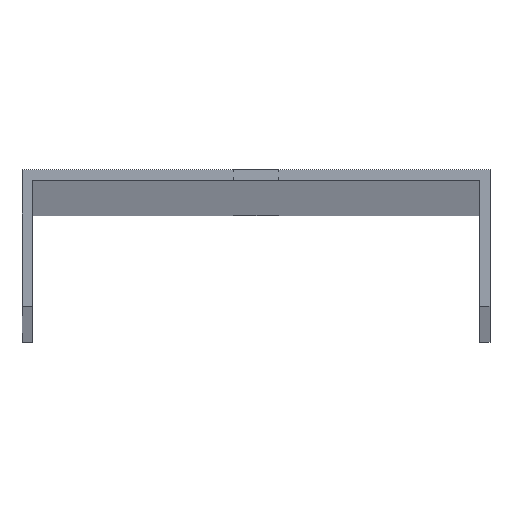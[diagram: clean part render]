
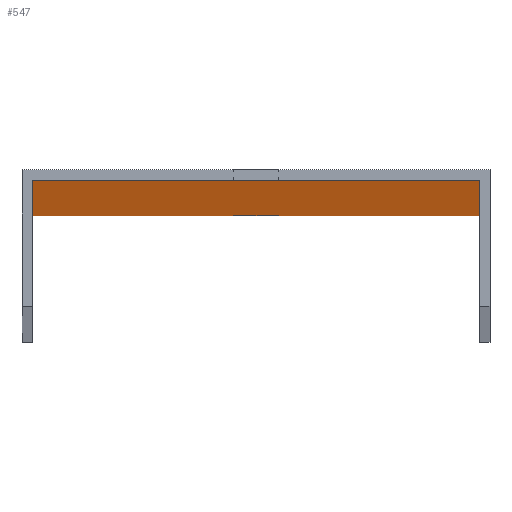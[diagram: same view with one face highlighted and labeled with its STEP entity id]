
A CAD part, top view. The second image highlights one B-rep face of the part: STEP entity #547.
In plain terms, the highlighted planar face has unit normal (0, -1, 0).
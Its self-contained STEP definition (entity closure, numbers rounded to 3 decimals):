
#1 = DIRECTION ( 'NONE',  ( -1., 0., 0. ) ) ;
#6 = FACE_BOUND ( 'NONE', #99, .T. ) ;
#9 = CARTESIAN_POINT ( 'NONE',  ( -34.25, -1.5, 1500. ) ) ;
#10 = ORIENTED_EDGE ( 'NONE', *, *, #277, .T. ) ;
#15 = EDGE_LOOP ( 'NONE', ( #47, #426, #358, #436 ) ) ;
#17 = ORIENTED_EDGE ( 'NONE', *, *, #135, .T. ) ;
#19 = CARTESIAN_POINT ( 'NONE',  ( -34.25, -1.5, 1488. ) ) ;
#21 = VECTOR ( 'NONE', #108, 1000. ) ;
#22 = VERTEX_POINT ( 'NONE', #388 ) ;
#32 = VECTOR ( 'NONE', #326, 1000. ) ;
#33 = EDGE_LOOP ( 'NONE', ( #168, #17, #10, #350 ) ) ;
#34 = CARTESIAN_POINT ( 'NONE',  ( 32.75, -1.5, 1500. ) ) ;
#42 = CARTESIAN_POINT ( 'NONE',  ( 3.25, -1.5, 1500. ) ) ;
#44 = LINE ( 'NONE', #258, #464 ) ;
#47 = ORIENTED_EDGE ( 'NONE', *, *, #175, .F. ) ;
#49 = DIRECTION ( 'NONE',  ( 0., -1., 0. ) ) ;
#50 = ORIENTED_EDGE ( 'NONE', *, *, #481, .F. ) ;
#58 = ORIENTED_EDGE ( 'NONE', *, *, #567, .F. ) ;
#75 = EDGE_CURVE ( 'NONE', #476, #325, #430, .T. ) ;
#77 = ORIENTED_EDGE ( 'NONE', *, *, #75, .F. ) ;
#79 = CARTESIAN_POINT ( 'NONE',  ( 32.75, -1.5, 1500. ) ) ;
#90 = LINE ( 'NONE', #459, #222 ) ;
#99 = EDGE_LOOP ( 'NONE', ( #50, #77, #58, #432 ) ) ;
#101 = CARTESIAN_POINT ( 'NONE',  ( -3.25, -1.5, -1488. ) ) ;
#108 = DIRECTION ( 'NONE',  ( -1., 0., 0. ) ) ;
#110 = EDGE_CURVE ( 'NONE', #22, #470, #44, .T. ) ;
#132 = LINE ( 'NONE', #34, #338 ) ;
#133 = VECTOR ( 'NONE', #1, 1000. ) ;
#134 = DIRECTION ( 'NONE',  ( 0., 0., -1. ) ) ;
#135 = EDGE_CURVE ( 'NONE', #543, #468, #585, .T. ) ;
#143 = VECTOR ( 'NONE', #559, 1000. ) ;
#151 = CARTESIAN_POINT ( 'NONE',  ( -32.75, -1.5, -1500. ) ) ;
#168 = ORIENTED_EDGE ( 'NONE', *, *, #311, .T. ) ;
#171 = CARTESIAN_POINT ( 'NONE',  ( -3.25, -1.5, 1500. ) ) ;
#175 = EDGE_CURVE ( 'NONE', #300, #299, #405, .T. ) ;
#177 = CARTESIAN_POINT ( 'NONE',  ( -3.25, -1.5, -1479. ) ) ;
#182 = FACE_OUTER_BOUND ( 'NONE', #15, .T. ) ;
#187 = PLANE ( 'NONE',  #268 ) ;
#200 = DIRECTION ( 'NONE',  ( -1., 0., 0. ) ) ;
#204 = DIRECTION ( 'NONE',  ( 1., 0., 0. ) ) ;
#217 = EDGE_CURVE ( 'NONE', #538, #479, #511, .T. ) ;
#222 = VECTOR ( 'NONE', #282, 1000. ) ;
#224 = DIRECTION ( 'NONE',  ( 0., 0., 1. ) ) ;
#258 = CARTESIAN_POINT ( 'NONE',  ( 3.25, -1.5, 1500. ) ) ;
#263 = CARTESIAN_POINT ( 'NONE',  ( -34.25, -1.5, -1500. ) ) ;
#264 = LINE ( 'NONE', #42, #578 ) ;
#268 = AXIS2_PLACEMENT_3D ( 'NONE', #552, #49, #134 ) ;
#269 = DIRECTION ( 'NONE',  ( 0., 0., 1. ) ) ;
#277 = EDGE_CURVE ( 'NONE', #468, #22, #480, .T. ) ;
#282 = DIRECTION ( 'NONE',  ( 0., 0., -1. ) ) ;
#291 = CARTESIAN_POINT ( 'NONE',  ( -34.25, -1.5, -1479. ) ) ;
#293 = CARTESIAN_POINT ( 'NONE',  ( -34.25, -1.5, -1488. ) ) ;
#299 = VERTEX_POINT ( 'NONE', #151 ) ;
#300 = VERTEX_POINT ( 'NONE', #437 ) ;
#304 = CARTESIAN_POINT ( 'NONE',  ( 3.25, -1.5, 1479. ) ) ;
#311 = EDGE_CURVE ( 'NONE', #470, #543, #537, .T. ) ;
#320 = CARTESIAN_POINT ( 'NONE',  ( 3.25, -1.5, -1488. ) ) ;
#324 = FACE_BOUND ( 'NONE', #33, .T. ) ;
#325 = VERTEX_POINT ( 'NONE', #381 ) ;
#326 = DIRECTION ( 'NONE',  ( 1., 0., 0. ) ) ;
#338 = VECTOR ( 'NONE', #502, 1000. ) ;
#350 = ORIENTED_EDGE ( 'NONE', *, *, #110, .T. ) ;
#358 = ORIENTED_EDGE ( 'NONE', *, *, #529, .T. ) ;
#360 = DIRECTION ( 'NONE',  ( 0., 0., -1. ) ) ;
#375 = LINE ( 'NONE', #9, #143 ) ;
#381 = CARTESIAN_POINT ( 'NONE',  ( -3.25, -1.5, 1488. ) ) ;
#388 = CARTESIAN_POINT ( 'NONE',  ( 3.25, -1.5, -1479. ) ) ;
#393 = CARTESIAN_POINT ( 'NONE',  ( 3.25, -1.5, 1488. ) ) ;
#398 = VERTEX_POINT ( 'NONE', #79 ) ;
#401 = VERTEX_POINT ( 'NONE', #497 ) ;
#405 = LINE ( 'NONE', #263, #133 ) ;
#420 = VECTOR ( 'NONE', #200, 1000. ) ;
#426 = ORIENTED_EDGE ( 'NONE', *, *, #449, .F. ) ;
#430 = LINE ( 'NONE', #19, #420 ) ;
#431 = VECTOR ( 'NONE', #360, 1000. ) ;
#432 = ORIENTED_EDGE ( 'NONE', *, *, #217, .F. ) ;
#436 = ORIENTED_EDGE ( 'NONE', *, *, #544, .T. ) ;
#437 = CARTESIAN_POINT ( 'NONE',  ( 32.75, -1.5, -1500. ) ) ;
#449 = EDGE_CURVE ( 'NONE', #398, #300, #132, .T. ) ;
#451 = VECTOR ( 'NONE', #204, 1000. ) ;
#459 = CARTESIAN_POINT ( 'NONE',  ( -32.75, -1.5, 1500. ) ) ;
#464 = VECTOR ( 'NONE', #508, 1000. ) ;
#467 = CARTESIAN_POINT ( 'NONE',  ( -3.25, -1.5, 1479. ) ) ;
#468 = VERTEX_POINT ( 'NONE', #177 ) ;
#470 = VERTEX_POINT ( 'NONE', #320 ) ;
#476 = VERTEX_POINT ( 'NONE', #393 ) ;
#479 = VERTEX_POINT ( 'NONE', #304 ) ;
#480 = LINE ( 'NONE', #291, #451 ) ;
#481 = EDGE_CURVE ( 'NONE', #325, #538, #586, .T. ) ;
#497 = CARTESIAN_POINT ( 'NONE',  ( -32.75, -1.5, 1500. ) ) ;
#502 = DIRECTION ( 'NONE',  ( 0., 0., -1. ) ) ;
#504 = CARTESIAN_POINT ( 'NONE',  ( -3.25, -1.5, 1500. ) ) ;
#508 = DIRECTION ( 'NONE',  ( 0., 0., -1. ) ) ;
#511 = LINE ( 'NONE', #521, #32 ) ;
#521 = CARTESIAN_POINT ( 'NONE',  ( -34.25, -1.5, 1479. ) ) ;
#529 = EDGE_CURVE ( 'NONE', #398, #401, #375, .T. ) ;
#537 = LINE ( 'NONE', #293, #21 ) ;
#538 = VERTEX_POINT ( 'NONE', #467 ) ;
#543 = VERTEX_POINT ( 'NONE', #101 ) ;
#544 = EDGE_CURVE ( 'NONE', #401, #299, #90, .T. ) ;
#547 = ADVANCED_FACE ( 'NONE', ( #6, #182, #324 ), #187, .T. ) ;
#552 = CARTESIAN_POINT ( 'NONE',  ( -34.25, -1.5, 1500. ) ) ;
#559 = DIRECTION ( 'NONE',  ( -1., 0., 0. ) ) ;
#567 = EDGE_CURVE ( 'NONE', #479, #476, #264, .T. ) ;
#578 = VECTOR ( 'NONE', #224, 1000. ) ;
#585 = LINE ( 'NONE', #504, #588 ) ;
#586 = LINE ( 'NONE', #171, #431 ) ;
#588 = VECTOR ( 'NONE', #269, 1000. ) ;
